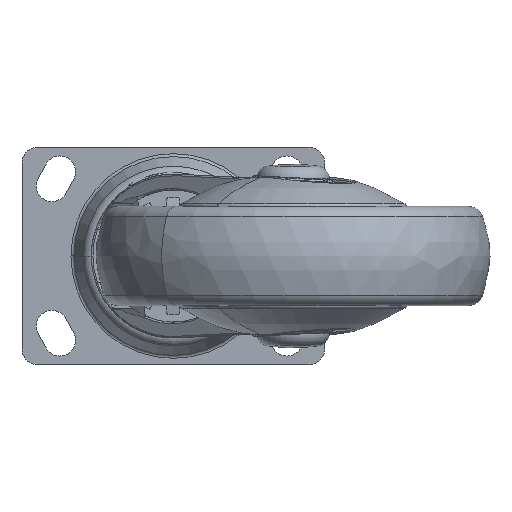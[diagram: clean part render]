
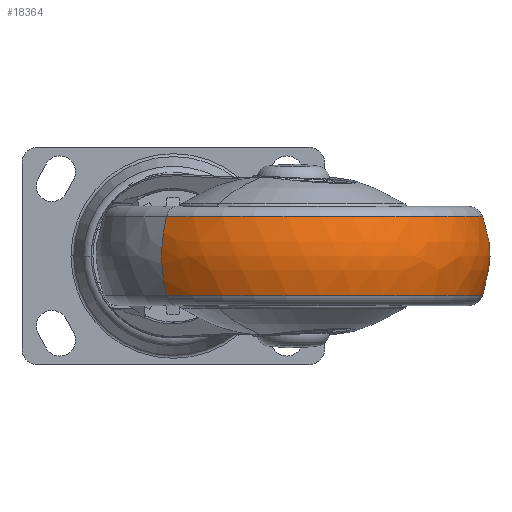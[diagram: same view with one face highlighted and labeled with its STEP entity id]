
A CAD part, front view. The second image highlights one B-rep face of the part: STEP entity #18364.
In plain terms, the highlighted free-form (B-spline) face has degree [3, 3] with [7, 4] control points.
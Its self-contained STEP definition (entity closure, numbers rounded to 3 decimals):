
#18190=CARTESIAN_POINT('',(38.,-88.,12.54));
#18191=DIRECTION('',(0.,0.,1.));
#18192=DIRECTION('',(-0.667,-0.745,0.));
#18193=AXIS2_PLACEMENT_3D('',#18190,#18191,#18192);
#18195=CARTESIAN_POINT('',(56.312,-67.528,0.));
#18196=DIRECTION('',(0.745,-0.667,0.));
#18197=DIRECTION('',(0.623,0.696,-0.358));
#18198=AXIS2_PLACEMENT_3D('',#18195,#18196,#18197);
#18200=CARTESIAN_POINT('',(38.,-88.,-12.54));
#18201=DIRECTION('',(0.,0.,1.));
#18202=DIRECTION('',(-0.667,-0.745,0.));
#18203=AXIS2_PLACEMENT_3D('',#18200,#18201,#18202);
#18205=CARTESIAN_POINT('',(19.688,-108.472,0.));
#18206=DIRECTION('',(-0.745,0.667,0.));
#18207=DIRECTION('',(-0.623,-0.696,-0.358));
#18208=AXIS2_PLACEMENT_3D('',#18205,#18206,#18207);
#18259=CARTESIAN_POINT('',(-2.121,-132.854,
12.54));
#18260=CARTESIAN_POINT('',(78.121,-43.146,
12.54));
#18261=VERTEX_POINT('',#18259);
#18262=VERTEX_POINT('',#18260);
#18263=CARTESIAN_POINT('',(-2.121,-132.854,
-12.54));
#18264=CARTESIAN_POINT('',(78.121,-43.146,
-12.54));
#18265=VERTEX_POINT('',#18263);
#18266=VERTEX_POINT('',#18264);
#18326=CARTESIAN_POINT('',(75.109,-40.863,
13.017));
#18327=CARTESIAN_POINT('',(77.204,-38.202,
4.557));
#18328=CARTESIAN_POINT('',(77.204,-38.202,
-4.557));
#18329=CARTESIAN_POINT('',(75.109,-40.863,
-13.017));
#18330=CARTESIAN_POINT('',(104.117,-63.7,
13.017));
#18331=CARTESIAN_POINT('',(107.849,-62.328,
4.557));
#18332=CARTESIAN_POINT('',(107.849,-62.328,
-4.557));
#18333=CARTESIAN_POINT('',(104.117,-63.7,
-13.017));
#18334=CARTESIAN_POINT('',(107.327,-100.479,
13.017));
#18335=CARTESIAN_POINT('',(111.241,-101.183,
4.557));
#18336=CARTESIAN_POINT('',(111.241,-101.183,
-4.557));
#18337=CARTESIAN_POINT('',(107.327,-100.479,
-13.017));
#18338=CARTESIAN_POINT('',(82.714,-127.996,
13.017));
#18339=CARTESIAN_POINT('',(85.238,-130.253,
4.557));
#18340=CARTESIAN_POINT('',(85.238,-130.253,
-4.557));
#18341=CARTESIAN_POINT('',(82.714,-127.996,
-13.017));
#18342=CARTESIAN_POINT('',(58.101,-155.513,
13.017));
#18343=CARTESIAN_POINT('',(59.235,-159.323,
4.557));
#18344=CARTESIAN_POINT('',(59.235,-159.323,
-4.557));
#18345=CARTESIAN_POINT('',(58.101,-155.513,
-13.017));
#18346=CARTESIAN_POINT('',(21.193,-156.407,
13.017));
#18347=CARTESIAN_POINT('',(20.244,-160.268,
4.557));
#18348=CARTESIAN_POINT('',(20.244,-160.268,
-4.557));
#18349=CARTESIAN_POINT('',(21.193,-156.407,
-13.017));
#18350=CARTESIAN_POINT('',(-4.724,-130.115,
13.017));
#18351=CARTESIAN_POINT('',(-7.136,-132.492,
4.557));
#18352=CARTESIAN_POINT('',(-7.136,-132.492,
-4.557));
#18353=CARTESIAN_POINT('',(-4.724,-130.115,-13.017));
#18354=(BOUNDED_SURFACE()B_SPLINE_SURFACE(3,3,((#18326,#18327,#18328,#18329),(
#18330,#18331,#18332,#18333),(#18334,#18335,#18336,#18337),(#18338,#18339,
#18340,#18341),(#18342,#18343,#18344,#18345),(#18346,#18347,#18348,#18349),(
#18350,#18351,#18352,#18353)),.UNSPECIFIED.,.F.,.F.,.F.)B_SPLINE_SURFACE_WITH_KNOTS((4,3,4),(4,4),(0.,1.,2.),(0.,1.),.UNSPECIFIED.)GEOMETRIC_REPRESENTATION_ITEM()RATIONAL_B_SPLINE_SURFACE(((1.231,1.173,
1.173,1.231),(0.972,0.926,
0.926,0.972),(0.972,0.926,
0.926,0.972),(1.231,1.173,
1.173,1.231),(0.972,0.926,
0.926,0.972),(0.972,0.926,
0.926,0.972),(1.231,1.173,
1.173,1.231)))REPRESENTATION_ITEM('')SURFACE());
#18356=ORIENTED_EDGE('',*,*,#18355,.T.);
#18358=ORIENTED_EDGE('',*,*,#18357,.F.);
#18359=ORIENTED_EDGE('',*,*,#18309,.F.);
#18361=ORIENTED_EDGE('',*,*,#18360,.T.);
#18362=EDGE_LOOP('',(#18356,#18358,#18359,#18361));
#18363=FACE_OUTER_BOUND('',#18362,.F.);
#18194=CIRCLE('',#18193,60.179);
#18199=CIRCLE('',#18198,35.033);
#18204=CIRCLE('',#18203,60.179);
#18209=CIRCLE('',#18208,35.033);
#18309=EDGE_CURVE('',#18265,#18266,#18204,.T.);
#18355=EDGE_CURVE('',#18261,#18262,#18194,.T.);
#18357=EDGE_CURVE('',#18266,#18262,#18199,.T.);
#18360=EDGE_CURVE('',#18265,#18261,#18209,.T.);
#18364=ADVANCED_FACE('',(#18363),#18354,.T.);
